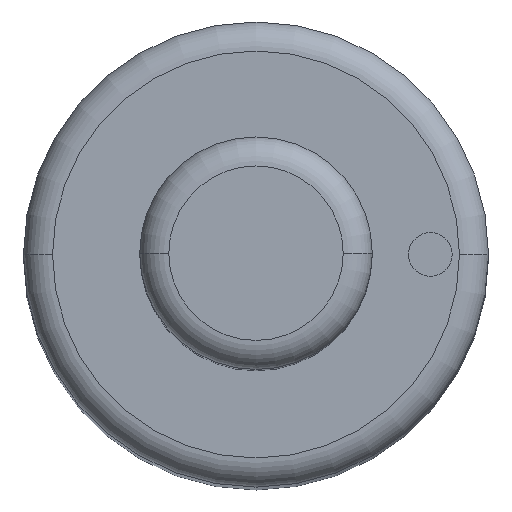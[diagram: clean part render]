
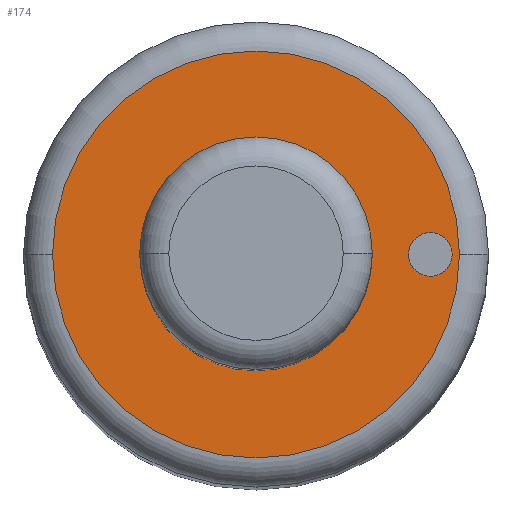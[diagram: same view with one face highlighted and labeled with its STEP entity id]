
A CAD part, top view. The second image highlights one B-rep face of the part: STEP entity #174.
In plain terms, the highlighted planar face has unit normal (0, 0, 1).
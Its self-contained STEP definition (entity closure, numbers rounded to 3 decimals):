
#99=FACE_BOUND('',#225,.T.);
#100=FACE_BOUND('',#226,.T.);
#101=FACE_BOUND('',#227,.T.);
#174=ADVANCED_FACE('',(#99,#100,#101),#180,.T.);
#180=PLANE('',#475);
#225=EDGE_LOOP('',(#307,#308));
#226=EDGE_LOOP('',(#309,#310));
#227=EDGE_LOOP('',(#311,#312));
#307=ORIENTED_EDGE('',*,*,#367,.F.);
#308=ORIENTED_EDGE('',*,*,#368,.F.);
#309=ORIENTED_EDGE('',*,*,#390,.F.);
#310=ORIENTED_EDGE('',*,*,#391,.F.);
#311=ORIENTED_EDGE('',*,*,#363,.T.);
#312=ORIENTED_EDGE('',*,*,#361,.T.);
#329=VERTEX_POINT('',#630);
#330=VERTEX_POINT('',#632);
#331=VERTEX_POINT('',#638);
#334=VERTEX_POINT('',#643);
#346=VERTEX_POINT('',#692);
#347=VERTEX_POINT('',#693);
#361=EDGE_CURVE('',#330,#329,#404,.T.);
#363=EDGE_CURVE('',#329,#330,#405,.T.);
#367=EDGE_CURVE('',#334,#331,#409,.T.);
#368=EDGE_CURVE('',#331,#334,#410,.T.);
#390=EDGE_CURVE('',#346,#347,#422,.T.);
#391=EDGE_CURVE('',#347,#346,#423,.T.);
#404=CIRCLE('',#440,4.);
#405=CIRCLE('',#442,4.);
#409=CIRCLE('',#447,7.);
#410=CIRCLE('',#449,7.);
#422=CIRCLE('',#473,0.75);
#423=CIRCLE('',#474,0.75);
#440=AXIS2_PLACEMENT_3D('',#631,#512,#513);
#442=AXIS2_PLACEMENT_3D('',#635,#517,#518);
#447=AXIS2_PLACEMENT_3D('',#644,#527,#528);
#449=AXIS2_PLACEMENT_3D('',#646,#531,#532);
#473=AXIS2_PLACEMENT_3D('',#691,#589,#590);
#474=AXIS2_PLACEMENT_3D('',#694,#591,#592);
#475=AXIS2_PLACEMENT_3D('',#695,#593,#594);
#512=DIRECTION('',(0.,0.,-1.));
#513=DIRECTION('',(0.,1.,0.));
#517=DIRECTION('',(0.,0.,-1.));
#518=DIRECTION('',(0.,-1.,0.));
#527=DIRECTION('',(0.,0.,-1.));
#528=DIRECTION('',(0.,1.,0.));
#531=DIRECTION('',(0.,0.,-1.));
#532=DIRECTION('',(0.,-1.,0.));
#589=DIRECTION('',(0.,0.,1.));
#590=DIRECTION('',(0.,1.,0.));
#591=DIRECTION('',(0.,0.,1.));
#592=DIRECTION('',(0.,-1.,0.));
#593=DIRECTION('',(0.,0.,1.));
#594=DIRECTION('',(0.,-1.,0.));
#630=CARTESIAN_POINT('',(-4.,0.,59.));
#631=CARTESIAN_POINT('',(0.,0.,59.));
#632=CARTESIAN_POINT('',(4.,0.,59.));
#635=CARTESIAN_POINT('',(0.,0.,59.));
#638=CARTESIAN_POINT('',(-7.,0.,59.));
#643=CARTESIAN_POINT('',(7.,0.,59.));
#644=CARTESIAN_POINT('',(0.,0.,59.));
#646=CARTESIAN_POINT('',(0.,0.,59.));
#691=CARTESIAN_POINT('',(6.,0.,59.));
#692=CARTESIAN_POINT('',(5.25,0.,59.));
#693=CARTESIAN_POINT('',(6.75,0.,59.));
#694=CARTESIAN_POINT('',(6.,0.,59.));
#695=CARTESIAN_POINT('',(0.,0.,59.));
